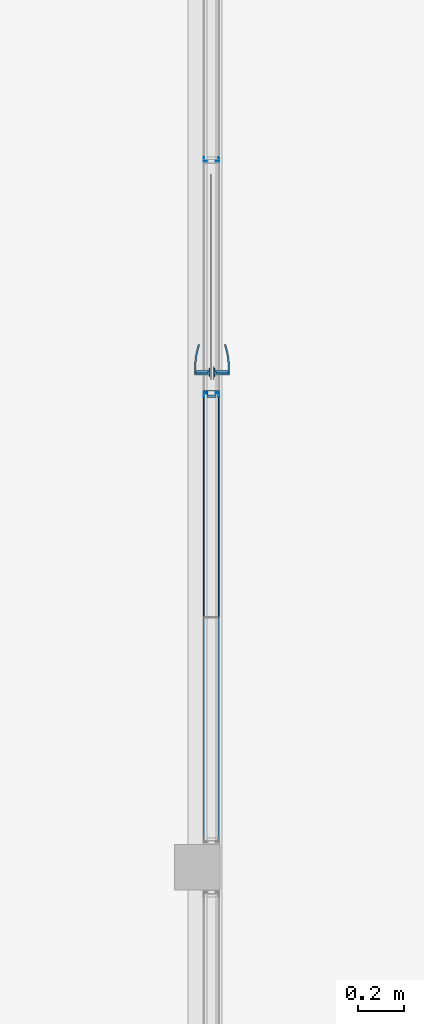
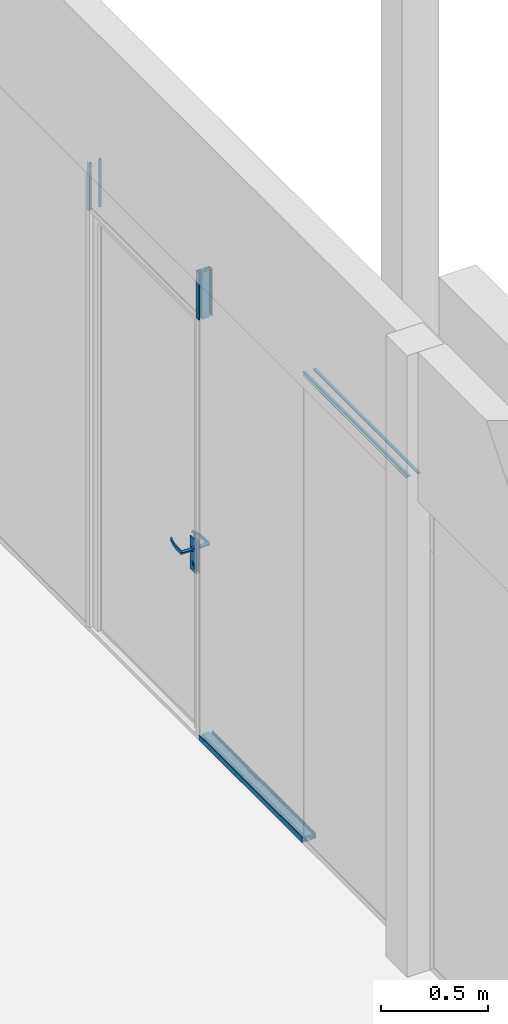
# One storey, part 47 of 65: 7 building element parts, 6 elements without a shape of their own.
"""IFC2X3 building model written with IfcOpenShell, lengths in millimetres."""

from ifc_helpers import new_model, entity, si_unit, converted_unit, derived_unit, money_unit, direction, frame, origin_with_axes, place, context, subcontext, project, spatial, open_shell, faceted_brep, surface_model, material, type_object, element, aggregate, save


model = new_model("IFC2X3")

# Units and contexts
model_context = context("Model", 3, precision=0.01, world=origin_with_axes(), true_north=direction((0.0, 1.0)))
body_context = subcontext(model_context, "Body", "Model", "MODEL_VIEW")
ifc_project = project(units=[si_unit("LENGTHUNIT", "METRE", prefix="MILLI"), si_unit("AREAUNIT", "SQUARE_METRE"), si_unit("VOLUMEUNIT", "CUBIC_METRE"), converted_unit("PLANEANGLEUNIT", "DEGREE", entity("IfcPlaneAngleMeasure", 0.0174532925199), si_unit("PLANEANGLEUNIT", "RADIAN"), dimensions=[0, 0, 0, 0, 0, 0, 0]), si_unit("SOLIDANGLEUNIT", "STERADIAN"), money_unit("EUR"), converted_unit("TIMEUNIT", "Year", entity("IfcTimeMeasure", 31556926.0), si_unit("TIMEUNIT", "SECOND"), dimensions=[0, 0, 1, 0, 0, 0, 0]), si_unit("MASSUNIT", "GRAM", prefix="KILO"), si_unit("THERMODYNAMICTEMPERATUREUNIT", "DEGREE_CELSIUS"), si_unit("LUMINOUSINTENSITYUNIT", "LUMEN"), si_unit("ENERGYUNIT", "JOULE", prefix="MEGA"), derived_unit("THERMALCONDUCTANCEUNIT", [(si_unit("POWERUNIT", "WATT"), 1), (si_unit("LENGTHUNIT", "METRE"), -1), (si_unit("THERMODYNAMICTEMPERATUREUNIT", "KELVIN"), -1)]), derived_unit("SPECIFICHEATCAPACITYUNIT", [(si_unit("ENERGYUNIT", "JOULE"), 1), (si_unit("MASSUNIT", "GRAM", prefix="KILO"), -1), (si_unit("THERMODYNAMICTEMPERATUREUNIT", "KELVIN"), -1)]), derived_unit("MASSDENSITYUNIT", [(si_unit("MASSUNIT", "GRAM", prefix="KILO"), 1), (si_unit("VOLUMEUNIT", "CUBIC_METRE"), -1)])], contexts=[model_context])

# Site, building, storey
site_placement = place(None, origin_with_axes())
site = spatial("IfcSite", under=ifc_project, at=site_placement, Name="Puškini 31, Narva", CompositionType="ELEMENT")
building_placement = place(site_placement, origin_with_axes())
building = spatial("IfcBuilding", under=site, at=building_placement, Name="Narva Riigigümnaasium", CompositionType="ELEMENT")
storey_placement = place(building_placement, frame((0.0, 0.0, -1320.0), z_axis=(0.0, 0.0, 1.0), x_axis=(1.0, 0.0, 0.0)))
storey = spatial("IfcBuildingStorey", under=building, at=storey_placement, Name="1.korrus -1.32", CompositionType="ELEMENT", Elevation=-1320.0)

# Curtain wall, door, building element parts, members
curtain_wall_type = type_object("IfcCurtainWallType", Name="Curtain Wall Type", PredefinedType="NOTDEFINED")
curtain_wall_placement = place(storey_placement, frame((30362.9999948, 171898.750025, 0.0), z_axis=(0.0, 0.0, 1.0), x_axis=(1.0, 0.0, 0.0)))
curtain_wall = element("IfcCurtainWall", 1, at=curtain_wall_placement, inside=storey, type_object=curtain_wall_type, Name="G-SKLF-06")
door_style = type_object("IfcDoorStyle", Name="968 x 2365 x 20", ConstructionType="NOTDEFINED", OperationType="NOTDEFINED", ParameterTakesPrecedence=False, Sizeable=False)
door_placement = place(curtain_wall_placement, frame((0.0, 1995.0, 1200.0), z_axis=(0.0, 0.0, 1.0), x_axis=(0.0, -1.0, 0.0)))
door = element("IfcDoor", 2, at=door_placement, type_object=door_style, Name="G-SKLF-06-U1", ObjectType="DOOR")
ifc_material_1 = material(Name="ET-07_Teras - Roostevaba")
building_element_part_1_placement = place(door_placement, origin_with_axes())
building_element_part_1 = element("IfcBuildingElementPart", 3, at=building_element_part_1_placement, material=ifc_material_1, Name="ET-07_Teras - Roostevaba", context=body_context, shape_type="SurfaceModel", body=[
    faceted_brep([(449.25, 9.0, -120.0), (449.25, 12.0, -120.0), (392.25, 12.0, -120.0), (392.25, 9.0, -120.0), (449.25, 9.0, -310.0), (449.25, 12.0, -310.0), (392.25, 12.0, -310.0), (392.25, 9.0, -310.0)], [[[0, 1, 2, 3]], [[4, 5, 1, 0]], [[1, 5, 6, 2]], [[3, 2, 6, 7]], [[0, 3, 7, 4]], [[7, 6, 5, 4]]]),
    surface_model("IfcShellBasedSurfaceModel", [(420.75, 73.0, -190.0), (420.75, 80.0, -190.0), (429.410254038, 80.0, -185.0), (429.410254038, 73.0, -185.0), (395.75, 73.0, -190.0), (395.75, 80.0, -190.0), (395.75, 80.0, -170.0), (420.75, 80.0, -170.0), (429.410254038, 80.0, -175.0), (429.410254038, 73.0, -175.0), (420.75, 73.0, -170.0), (395.75, 73.0, -170.0)], [open_shell([[[0, 1, 2, 3]], [[4, 5, 1, 0]], [[1, 5, 6, 7, 8, 2]], [[3, 2, 8, 9]], [[0, 3, 9, 10, 11, 4]], [[10, 7, 6, 11]], [[9, 8, 7, 10]]])]),
    surface_model("IfcShellBasedSurfaceModel", [(395.75, 73.0, -170.0), (382.346090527, 80.0, -170.392699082), (382.651717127, 73.0, -170.392699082), (395.75, 80.0, -170.0), (355.640283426, 77.6635446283, -171.178097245), (382.651717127, 73.0, -189.607300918), (395.75, 73.0, -190.0), (395.75, 80.0, -190.0), (382.346090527, 80.0, -189.607300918), (355.640283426, 77.6635446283, -188.821902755), (356.554837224, 70.716818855, -171.178097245), (356.554837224, 70.716818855, -188.821902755), (329.239735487, 73.0084157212, -188.036504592), (329.239735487, 73.0084157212, -171.963495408), (330.756256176, 66.1678329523, -171.963495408), (330.756256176, 66.1678329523, -188.036504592), (303.34537082, 66.0700416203, -187.251106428), (303.34537082, 66.0700416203, -172.748893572), (305.452316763, 59.3876628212, -172.748893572), (305.452316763, 59.3876628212, -187.251106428), (295.288795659, 63.1376880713, -187.0), (295.288795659, 63.1376880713, -173.0), (297.579442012, 56.5221707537, -173.0), (297.579442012, 56.5221707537, -187.0)], [open_shell([[[0, 1, 2]], [[0, 3, 1]], [[2, 1, 4]], [[0, 2, 5, 6]], [[3, 7, 8, 1]], [[1, 8, 9, 4]], [[2, 4, 10]], [[2, 10, 11, 5]], [[5, 7, 6]], [[5, 8, 7]], [[11, 9, 8]], [[4, 9, 12, 13]], [[10, 4, 13]], [[10, 14, 15, 11]], [[11, 8, 5]], [[15, 9, 11]], [[15, 12, 9]], [[13, 12, 16, 17]], [[10, 13, 14]], [[14, 18, 19, 15]], [[19, 12, 15]], [[19, 16, 12]], [[17, 16, 20, 21]], [[14, 13, 17]], [[14, 17, 18]], [[18, 22, 23, 19]], [[23, 16, 19]], [[23, 20, 16]], [[22, 21, 20, 23]], [[18, 17, 21]], [[18, 21, 22]]])]),
    faceted_brep([(417.041796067, 22.0, -191.412678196), (416.732779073, 12.0, -192.363734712), (407.75, 12.0, -180.0), (408.75, 22.0, -180.0), (430.458203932, 22.0, -187.053423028), (431.267220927, 12.0, -187.64120828), (431.267220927, 12.0, -172.35879172), (416.732779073, 12.0, -167.636265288), (417.041796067, 22.0, -168.587321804), (430.458203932, 22.0, -172.946576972)], [[[0, 1, 2, 3]], [[4, 5, 1, 0]], [[2, 1, 5, 6, 7]], [[3, 2, 7, 8]], [[3, 8, 9, 4, 0]], [[9, 6, 5, 4]], [[8, 7, 6, 9]]]),
    faceted_brep([(414.569660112, 16.0, -294.021130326), (413.951626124, 12.0, -295.923243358), (398.75, 12.0, -275.0), (400.75, 16.0, -275.0), (436.930339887, 16.0, -286.755705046), (438.548373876, 12.0, -287.93127555), (438.548373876, 12.0, -262.06872445), (413.951626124, 12.0, -254.076756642), (414.569660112, 16.0, -255.978869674), (436.930339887, 16.0, -263.244294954)], [[[0, 1, 2, 3]], [[4, 5, 1, 0]], [[2, 1, 5, 6, 7]], [[3, 2, 7, 8]], [[3, 8, 9, 4, 0]], [[9, 6, 5, 4]], [[8, 7, 6, 9]]]),
    faceted_brep([(418.586881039, 18.0, -272.657395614), (418.277864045, 16.0, -273.60845213), (412.75, 16.0, -266.0), (413.75, 18.0, -266.0), (426.413118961, 18.0, -270.114496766), (427.222135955, 16.0, -270.702282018), (427.222135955, 16.0, -261.297717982), (418.277864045, 16.0, -258.39154787), (418.586881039, 18.0, -259.342604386), (426.413118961, 18.0, -261.885503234)], [[[0, 1, 2, 3]], [[4, 5, 1, 0]], [[2, 1, 5, 6, 7]], [[3, 2, 7, 8]], [[3, 8, 9, 4, 0]], [[9, 6, 5, 4]], [[8, 7, 6, 9]]]),
    faceted_brep([(420.75, 22.0, -170.0), (420.75, 73.0, -170.0), (411.239434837, 73.0, -176.909830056), (411.239434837, 22.0, -176.909830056), (430.260565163, 22.0, -176.909830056), (430.260565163, 73.0, -176.909830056), (426.627852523, 73.0, -188.090169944), (414.872147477, 73.0, -188.090169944), (414.872147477, 22.0, -188.090169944), (426.627852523, 22.0, -188.090169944)], [[[0, 1, 2, 3]], [[4, 5, 1, 0]], [[1, 5, 6, 7, 2]], [[3, 2, 7, 8]], [[0, 3, 8, 9, 4]], [[9, 6, 5, 4]], [[8, 7, 6, 9]]]),
    faceted_brep([(449.25, -3.0, -120.0), (392.25, -3.0, -120.0), (392.25, -6.0, -120.0), (449.25, -6.0, -120.0), (449.25, -3.0, -310.0), (392.25, -3.0, -310.0), (392.25, -6.0, -310.0), (449.25, -6.0, -310.0)], [[[0, 1, 2, 3]], [[0, 4, 5, 1]], [[1, 5, 6, 2]], [[3, 2, 6, 7]], [[4, 0, 3, 7]], [[5, 4, 7, 6]]]),
    surface_model("IfcShellBasedSurfaceModel", [(420.75, -67.0, -190.0), (429.410254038, -67.0, -185.0), (429.410254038, -74.0, -185.0), (420.75, -74.0, -190.0), (395.75, -67.0, -190.0), (395.75, -67.0, -170.0), (420.75, -67.0, -170.0), (429.410254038, -67.0, -175.0), (429.410254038, -74.0, -175.0), (420.75, -74.0, -170.0), (395.75, -74.0, -170.0), (395.75, -74.0, -190.0)], [open_shell([[[0, 1, 2, 3]], [[0, 4, 5, 6, 7, 1]], [[1, 7, 8, 2]], [[3, 2, 8, 9, 10, 11]], [[4, 0, 3, 11]], [[6, 5, 10, 9]], [[7, 6, 9, 8]]])]),
    surface_model("IfcShellBasedSurfaceModel", [(395.75, -67.0, -170.0), (382.651717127, -67.0, -170.392699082), (382.346090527, -74.0, -170.392699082), (395.75, -67.0, -190.0), (382.651717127, -67.0, -189.607300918), (355.640283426, -71.6635446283, -171.178097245), (395.75, -74.0, -170.0), (395.75, -74.0, -190.0), (356.554837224, -64.716818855, -188.821902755), (356.554837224, -64.716818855, -171.178097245), (355.640283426, -71.6635446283, -188.821902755), (382.346090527, -74.0, -189.607300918), (330.756256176, -60.1678329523, -188.036504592), (330.756256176, -60.1678329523, -171.963495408), (329.239735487, -67.0084157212, -171.963495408), (329.239735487, -67.0084157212, -188.036504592), (305.452316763, -53.3876628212, -187.251106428), (305.452316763, -53.3876628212, -172.748893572), (303.34537082, -60.0700416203, -172.748893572), (303.34537082, -60.0700416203, -187.251106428), (297.579442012, -50.5221707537, -187.0), (297.579442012, -50.5221707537, -173.0), (295.288795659, -57.1376880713, -173.0), (295.288795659, -57.1376880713, -187.0)], [open_shell([[[0, 1, 2]], [[0, 3, 4, 1]], [[1, 5, 2]], [[0, 2, 6]], [[4, 3, 7]], [[1, 4, 8, 9]], [[1, 9, 5]], [[2, 5, 10, 11]], [[6, 2, 11, 7]], [[4, 7, 11]], [[8, 4, 11]], [[9, 8, 12, 13]], [[9, 14, 5]], [[5, 14, 15, 10]], [[8, 11, 10]], [[12, 8, 10]], [[13, 12, 16, 17]], [[9, 13, 14]], [[14, 18, 19, 15]], [[12, 10, 15]], [[16, 12, 15]], [[17, 16, 20, 21]], [[13, 17, 18]], [[13, 18, 14]], [[18, 22, 23, 19]], [[16, 15, 19]], [[20, 16, 19]], [[21, 20, 23, 22]], [[17, 21, 22]], [[17, 22, 18]], [[20, 19, 23]]])]),
    faceted_brep([(417.041796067, -16.0, -191.412678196), (408.75, -16.0, -180.0), (407.75, -6.0, -180.0), (416.732779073, -6.0, -192.363734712), (430.458203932, -16.0, -187.053423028), (430.458203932, -16.0, -172.946576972), (417.041796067, -16.0, -168.587321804), (416.732779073, -6.0, -167.636265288), (431.267220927, -6.0, -172.35879172), (431.267220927, -6.0, -187.64120828)], [[[0, 1, 2, 3]], [[1, 0, 4, 5, 6]], [[1, 6, 7, 2]], [[2, 7, 8, 9, 3]], [[4, 0, 3, 9]], [[5, 4, 9, 8]], [[6, 5, 8, 7]]]),
    faceted_brep([(414.569660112, -10.0, -294.021130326), (400.75, -10.0, -275.0), (398.75, -6.0, -275.0), (413.951626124, -6.0, -295.923243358), (436.930339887, -10.0, -286.755705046), (436.930339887, -10.0, -263.244294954), (414.569660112, -10.0, -255.978869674), (413.951626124, -6.0, -254.076756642), (438.548373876, -6.0, -262.06872445), (438.548373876, -6.0, -287.93127555)], [[[0, 1, 2, 3]], [[1, 0, 4, 5, 6]], [[1, 6, 7, 2]], [[2, 7, 8, 9, 3]], [[4, 0, 3, 9]], [[5, 4, 9, 8]], [[6, 5, 8, 7]]]),
    faceted_brep([(418.586881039, -12.0, -272.657395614), (413.75, -12.0, -266.0), (412.75, -10.0, -266.0), (418.277864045, -10.0, -273.60845213), (426.413118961, -12.0, -270.114496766), (426.413118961, -12.0, -261.885503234), (418.586881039, -12.0, -259.342604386), (418.277864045, -10.0, -258.39154787), (427.222135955, -10.0, -261.297717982), (427.222135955, -10.0, -270.702282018)], [[[0, 1, 2, 3]], [[1, 0, 4, 5, 6]], [[1, 6, 7, 2]], [[2, 7, 8, 9, 3]], [[4, 0, 3, 9]], [[5, 4, 9, 8]], [[6, 5, 8, 7]]]),
    faceted_brep([(420.75, -16.0, -170.0), (411.239434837, -16.0, -176.909830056), (411.239434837, -67.0, -176.909830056), (420.75, -67.0, -170.0), (430.260565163, -16.0, -176.909830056), (426.627852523, -16.0, -188.090169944), (414.872147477, -16.0, -188.090169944), (414.872147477, -67.0, -188.090169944), (426.627852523, -67.0, -188.090169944), (430.260565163, -67.0, -176.909830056)], [[[0, 1, 2, 3]], [[0, 4, 5, 6, 1]], [[1, 6, 7, 2]], [[3, 2, 7, 8, 9]], [[4, 0, 3, 9]], [[5, 4, 9, 8]], [[6, 5, 8, 7]]]),
])
aggregate(door, [building_element_part_1])
member_type_1 = type_object("IfcMemberType", Name="30 x 27", PredefinedType="MULLION")
member_1_placement = place(curtain_wall_placement, frame((0.0, 1496.25, 2400.0), z_axis=(0.0, 0.0, 1.0), x_axis=(0.0, -1.0, 0.0)))
member_1 = element("IfcMember", 4, at=member_1_placement, type_object=member_type_1, Name="G-SKLF-06-raam", ObjectType="MULLION")
ifc_material_2 = material(Name="Klaasvill")
building_element_part_2_placement = place(member_1_placement, origin_with_axes())
building_element_part_2 = element("IfcBuildingElementPart", 5, at=building_element_part_2_placement, material=ifc_material_2, Name="Klaasvill", context=body_context, shape_type="Brep", body=[
    faceted_brep([(7.49999990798, 20.000000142, 0.0), (13.8499999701, 20.000000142, 0.0), (13.8499999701, 20.000000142, 269.999980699), (7.49999990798, 20.000000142, 269.999980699), (7.49999990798, 34.0161444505, 0.0), (13.8499999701, 34.0161444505, 0.0), (13.8499999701, 34.0161444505, 269.999980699), (7.49999990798, 34.0161444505, 269.999980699)], [[[0, 1, 2, 3]], [[0, 4, 5, 1]], [[1, 5, 6, 2]], [[3, 2, 6, 7]], [[4, 0, 3, 7]], [[5, 4, 7, 6]]]),
    faceted_brep([(24.987414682, 34.0161444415, 0.0), (25.004489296, 32.0307503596, 0.0), (25.004489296, 32.0307503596, 269.999980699), (24.987414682, 34.0161444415, 269.999980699), (28.5126239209, 34.0161444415, 0.0), (28.7655837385, 33.0385325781, 0.0), (28.4955493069, 32.0307503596, 0.0), (27.75780152, 31.2930025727, 0.0), (26.7500193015, 31.0229681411, 0.0), (25.742237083, 31.2930025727, 0.0), (25.742237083, 31.2930025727, 269.999980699), (26.7500193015, 31.0229681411, 269.999980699), (27.75780152, 31.2930025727, 269.999980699), (28.4955493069, 32.0307503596, 269.999980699), (28.7655837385, 33.0385325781, 269.999980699), (28.5126239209, 34.0161444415, 269.999980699)], [[[0, 1, 2, 3]], [[0, 4, 5, 6, 7, 8, 9, 1]], [[1, 9, 10, 2]], [[3, 2, 10, 11, 12, 13, 14, 15]], [[4, 0, 3, 15]], [[5, 4, 15, 14]], [[6, 5, 14, 13]], [[7, 6, 13, 12]], [[8, 7, 12, 11]], [[9, 8, 11, 10]]]),
    faceted_brep([(7.49999990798, -19.9999997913, 0.0), (7.49999990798, -34.0161445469, 0.0), (7.49999990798, -34.0161445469, 269.999980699), (7.49999990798, -19.9999997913, 269.999980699), (13.8499999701, -19.9999997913, 0.0), (13.8499999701, -34.0161445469, 0.0), (13.8499999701, -34.0161445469, 269.999980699), (13.8499999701, -19.9999997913, 269.999980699)], [[[0, 1, 2, 3]], [[0, 4, 5, 1]], [[1, 5, 6, 2]], [[3, 2, 6, 7]], [[4, 0, 3, 7]], [[5, 4, 7, 6]]]),
    faceted_brep([(25.004489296, -32.0307503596, 0.0), (24.987414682, -34.0161444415, 0.0), (24.987414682, -34.0161444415, 269.999980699), (25.004489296, -32.0307503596, 269.999980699), (25.742237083, -31.2930025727, 0.0), (26.7500193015, -31.0229681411, 0.0), (27.75780152, -31.2930025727, 0.0), (28.4955493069, -32.0307503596, 0.0), (28.7655837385, -33.0385325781, 0.0), (28.5126239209, -34.0161444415, 0.0), (28.5126239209, -34.0161444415, 269.999980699), (28.7655837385, -33.0385325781, 269.999980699), (28.4955493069, -32.0307503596, 269.999980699), (27.75780152, -31.2930025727, 269.999980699), (26.7500193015, -31.0229681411, 269.999980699), (25.742237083, -31.2930025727, 269.999980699)], [[[0, 1, 2, 3]], [[0, 4, 5, 6, 7, 8, 9, 1]], [[1, 9, 10, 2]], [[3, 2, 10, 11, 12, 13, 14, 15]], [[4, 0, 3, 15]], [[5, 4, 15, 14]], [[6, 5, 14, 13]], [[7, 6, 13, 12]], [[8, 7, 12, 11]], [[9, 8, 11, 10]]]),
])
ifc_material_3 = material(Name="Teras RAL7012")
building_element_part_3_placement = place(member_1_placement, origin_with_axes())
building_element_part_3 = element("IfcBuildingElementPart", 6, at=building_element_part_3_placement, material=ifc_material_3, Name="Teras RAL7012", context=body_context, shape_type="Brep", body=[
    faceted_brep([(0.0, -17.0000000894, 0.0), (29.5999996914, -17.0000000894, 0.0), (29.5999996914, -17.0000000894, 269.999980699), (0.0, -17.0000000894, 269.999980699), (0.0, 17.0000000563, 0.0), (29.5999996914, 17.0000000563, 0.0), (1.9999999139, 15.0000001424, 0.0), (1.9999999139, -15.0000001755, 0.0), (18.7999996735, -15.0000001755, 0.0), (18.7999996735, 15.0000001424, 0.0), (29.5999996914, 17.0000000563, 269.999980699), (0.0, 17.0000000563, 269.999980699), (1.9999999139, 15.0000001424, 269.999980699), (18.7999996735, 15.0000001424, 269.999980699), (18.7999996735, -15.0000001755, 269.999980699), (1.9999999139, -15.0000001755, 269.999980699)], [[[0, 1, 2, 3]], [[0, 4, 5, 1], [6, 7, 8, 9]], [[1, 5, 10, 2]], [[3, 2, 10, 11], [12, 13, 14, 15]], [[4, 0, 3, 11]], [[5, 4, 11, 10]], [[7, 6, 12, 15]], [[8, 7, 15, 14]], [[9, 8, 14, 13]], [[6, 9, 13, 12]]]),
    faceted_brep([(0.0, 17.0, 0.0), (29.5999996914, 17.0000000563, 0.0), (29.5999996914, 17.0000000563, 269.999980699), (0.0, 17.0, 269.999980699), (0.0, 37.0, 0.0), (30.0000193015, 37.0, 0.0), (30.0000193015, 34.0161444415, 0.0), (28.5126239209, 34.0161444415, 0.0), (24.987414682, 34.0161444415, 0.0), (13.8499999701, 34.0161444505, 0.0), (7.49999999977, 34.0161444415, 0.0), (7.49999999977, 20.0, 0.0), (13.8499999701, 20.000000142, 0.0), (30.0000193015, 20.0, 0.0), (30.0000193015, 17.0, 0.0), (30.0000193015, 17.0, 269.999980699), (30.0000193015, 20.0, 269.999980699), (13.8499999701, 20.000000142, 269.999980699), (7.49999999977, 20.0, 269.999980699), (7.49999999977, 34.0161444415, 269.999980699), (13.8499999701, 34.0161444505, 269.999980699), (24.987414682, 34.0161444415, 269.999980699), (28.5126239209, 34.0161444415, 269.999980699), (30.0000193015, 34.0161444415, 269.999980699), (30.0000193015, 37.0, 269.999980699), (0.0, 37.0, 269.999980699)], [[[0, 1, 2, 3]], [[0, 4, 5, 6, 7, 8, 9, 10, 11, 12, 13, 14, 1]], [[1, 14, 15, 2]], [[3, 2, 15, 16, 17, 18, 19, 20, 21, 22, 23, 24, 25]], [[4, 0, 3, 25]], [[5, 4, 25, 24]], [[6, 5, 24, 23]], [[7, 6, 23, 22]], [[8, 7, 22, 21]], [[9, 8, 21, 20]], [[10, 9, 20, 19]], [[11, 10, 19, 18]], [[12, 11, 18, 17]], [[13, 12, 17, 16]], [[14, 13, 16, 15]]]),
    faceted_brep([(0.0, -17.0, 0.0), (0.0, -37.0, 0.0), (0.0, -37.0, 269.999980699), (0.0, -17.0, 269.999980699), (29.5999996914, -17.0000000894, 0.0), (30.0000193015, -17.0, 0.0), (30.0000193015, -20.0, 0.0), (13.8499999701, -19.9999997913, 0.0), (7.49999999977, -20.0, 0.0), (7.49999999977, -34.0161444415, 0.0), (13.8499999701, -34.0161445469, 0.0), (24.987414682, -34.0161444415, 0.0), (28.5126239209, -34.0161444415, 0.0), (30.0000193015, -34.0161444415, 0.0), (30.0000193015, -37.0, 0.0), (30.0000193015, -37.0, 269.999980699), (30.0000193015, -34.0161444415, 269.999980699), (28.5126239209, -34.0161444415, 269.999980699), (24.987414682, -34.0161444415, 269.999980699), (13.8499999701, -34.0161445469, 269.999980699), (7.49999999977, -34.0161444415, 269.999980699), (7.49999999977, -20.0, 269.999980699), (13.8499999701, -19.9999997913, 269.999980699), (30.0000193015, -20.0, 269.999980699), (30.0000193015, -17.0, 269.999980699), (29.5999996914, -17.0000000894, 269.999980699)], [[[0, 1, 2, 3]], [[0, 4, 5, 6, 7, 8, 9, 10, 11, 12, 13, 14, 1]], [[1, 14, 15, 2]], [[3, 2, 15, 16, 17, 18, 19, 20, 21, 22, 23, 24, 25]], [[4, 0, 3, 25]], [[5, 4, 25, 24]], [[6, 5, 24, 23]], [[7, 6, 23, 22]], [[8, 7, 22, 21]], [[9, 8, 21, 20]], [[10, 9, 20, 19]], [[11, 10, 19, 18]], [[12, 11, 18, 17]], [[13, 12, 17, 16]], [[14, 13, 16, 15]]]),
])
aggregate(member_1, [building_element_part_2, building_element_part_3])
member_2_placement = place(curtain_wall_placement, frame((0.0, 2493.75, 2400.0), z_axis=(0.0, 0.0, 1.0), x_axis=(0.0, -1.0, 0.0)))
member_2 = element("IfcMember", 7, at=member_2_placement, type_object=member_type_1, Name="G-SKLF-06-raam", ObjectType="MULLION")
building_element_part_4_placement = place(member_2_placement, origin_with_axes())
building_element_part_4 = element("IfcBuildingElementPart", 8, at=building_element_part_4_placement, material=ifc_material_2, Name="Klaasvill", context=body_context, shape_type="Brep", body=[
    faceted_brep([(-13.8499999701, 20.000000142, 0.0), (-7.49999990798, 20.000000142, 0.0), (-7.49999990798, 20.000000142, 269.999980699), (-13.8499999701, 20.000000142, 269.999980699), (-13.8499999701, 34.0161444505, 0.0), (-7.49999990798, 34.0161444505, 0.0), (-7.49999990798, 34.0161444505, 269.999980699), (-13.8499999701, 34.0161444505, 269.999980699)], [[[0, 1, 2, 3]], [[0, 4, 5, 1]], [[1, 5, 6, 2]], [[3, 2, 6, 7]], [[4, 0, 3, 7]], [[5, 4, 7, 6]]]),
    faceted_brep([(-24.987414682, 34.0161444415, 0.0), (-28.7655837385, 33.0385325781, 0.0), (-28.7655837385, 33.0385325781, 269.999980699), (-24.987414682, 34.0161444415, 269.999980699), (-24.7344548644, 33.0385325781, 0.0), (-25.004489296, 32.0307503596, 0.0), (-25.742237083, 31.2930025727, 0.0), (-26.7500193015, 31.0229681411, 0.0), (-27.75780152, 31.2930025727, 0.0), (-28.4955493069, 32.0307503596, 0.0), (-28.4955493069, 32.0307503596, 269.999980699), (-27.75780152, 31.2930025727, 269.999980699), (-26.7500193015, 31.0229681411, 269.999980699), (-25.742237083, 31.2930025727, 269.999980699), (-25.004489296, 32.0307503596, 269.999980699), (-24.7344548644, 33.0385325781, 269.999980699)], [[[0, 1, 2, 3]], [[0, 4, 5, 6, 7, 8, 9, 1]], [[1, 9, 10, 2]], [[3, 2, 10, 11, 12, 13, 14, 15]], [[4, 0, 3, 15]], [[5, 4, 15, 14]], [[6, 5, 14, 13]], [[7, 6, 13, 12]], [[8, 7, 12, 11]], [[9, 8, 11, 10]]]),
    faceted_brep([(-13.8499999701, -19.9999997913, 0.0), (-13.8499999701, -34.0161445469, 0.0), (-13.8499999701, -34.0161445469, 269.999980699), (-13.8499999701, -19.9999997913, 269.999980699), (-7.49999990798, -19.9999997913, 0.0), (-7.49999990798, -34.0161445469, 0.0), (-7.49999990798, -34.0161445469, 269.999980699), (-7.49999990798, -19.9999997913, 269.999980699)], [[[0, 1, 2, 3]], [[0, 4, 5, 1]], [[1, 5, 6, 2]], [[3, 2, 6, 7]], [[4, 0, 3, 7]], [[5, 4, 7, 6]]]),
    faceted_brep([(-24.987414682, -34.0161444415, 0.0), (-25.004489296, -32.0307503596, 0.0), (-25.004489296, -32.0307503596, 269.999980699), (-24.987414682, -34.0161444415, 269.999980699), (-28.5126239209, -34.0161444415, 0.0), (-28.7655837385, -33.0385325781, 0.0), (-28.4955493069, -32.0307503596, 0.0), (-27.75780152, -31.2930025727, 0.0), (-26.7500193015, -31.0229681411, 0.0), (-25.742237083, -31.2930025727, 0.0), (-25.742237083, -31.2930025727, 269.999980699), (-26.7500193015, -31.0229681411, 269.999980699), (-27.75780152, -31.2930025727, 269.999980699), (-28.4955493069, -32.0307503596, 269.999980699), (-28.7655837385, -33.0385325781, 269.999980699), (-28.5126239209, -34.0161444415, 269.999980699)], [[[0, 1, 2, 3]], [[0, 4, 5, 6, 7, 8, 9, 1]], [[1, 9, 10, 2]], [[3, 2, 10, 11, 12, 13, 14, 15]], [[4, 0, 3, 15]], [[5, 4, 15, 14]], [[6, 5, 14, 13]], [[7, 6, 13, 12]], [[8, 7, 12, 11]], [[9, 8, 11, 10]]]),
])
aggregate(member_2, [building_element_part_4])
member_type_2 = type_object("IfcMemberType", Name="30 x 37", PredefinedType="MULLION")
member_3_placement = place(curtain_wall_placement, frame((0.0, -498.75, 2700.0), z_axis=(0.0, 1.0, 0.0), x_axis=(0.0, 0.0, 1.0)))
member_3 = element("IfcMember", 9, at=member_3_placement, type_object=member_type_2, Name="G-SKLF-06-raam", ObjectType="MULLION")
building_element_part_5_placement = place(member_3_placement, origin_with_axes())
building_element_part_5 = element("IfcBuildingElementPart", 10, at=building_element_part_5_placement, material=ifc_material_2, Name="Klaasvill", context=body_context, shape_type="Brep", body=[
    faceted_brep([(-13.8499999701, 20.000000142, 13.8499999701), (-7.49999990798, 20.000000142, 7.49999990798), (-7.49999990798, 20.000000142, 997.5), (-13.8499999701, 20.000000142, 997.5), (-13.8499999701, 34.0161444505, 13.8499999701), (-7.49999990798, 34.0161444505, 7.49999990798), (-7.49999990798, 34.0161444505, 997.5), (-13.8499999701, 34.0161444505, 997.5)], [[[0, 1, 2, 3]], [[1, 0, 4, 5]], [[1, 5, 6, 2]], [[2, 6, 7, 3]], [[4, 0, 3, 7]], [[5, 4, 7, 6]]]),
    faceted_brep([(-25.004489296, 32.0307503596, 25.004489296), (-24.987414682, 34.0161444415, 24.987414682), (-24.987414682, 34.0161444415, 997.5), (-25.004489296, 32.0307503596, 997.5), (-25.742237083, 31.2930025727, 25.742237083), (-26.7500193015, 31.0229681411, 26.7500193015), (-27.75780152, 31.2930025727, 27.75780152), (-28.4955493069, 32.0307503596, 28.4955493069), (-28.7655837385, 33.0385325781, 28.7655837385), (-28.5126239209, 34.0161444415, 28.5126239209), (-28.5126239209, 34.0161444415, 997.5), (-28.7655837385, 33.0385325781, 997.5), (-28.4955493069, 32.0307503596, 997.5), (-27.75780152, 31.2930025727, 997.5), (-26.7500193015, 31.0229681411, 997.5), (-25.742237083, 31.2930025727, 997.5)], [[[0, 1, 2, 3]], [[1, 0, 4, 5, 6, 7, 8, 9]], [[1, 9, 10, 2]], [[2, 10, 11, 12, 13, 14, 15, 3]], [[4, 0, 3, 15]], [[5, 4, 15, 14]], [[6, 5, 14, 13]], [[7, 6, 13, 12]], [[8, 7, 12, 11]], [[9, 8, 11, 10]]]),
    faceted_brep([(-7.49999990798, -34.0161445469, 7.49999990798), (-7.49999990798, -19.9999997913, 7.49999990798), (-7.49999990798, -19.9999997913, 997.5), (-7.49999990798, -34.0161445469, 997.5), (-13.8499999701, -34.0161445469, 13.8499999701), (-13.8499999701, -19.9999997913, 13.8499999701), (-13.8499999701, -19.9999997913, 997.5), (-13.8499999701, -34.0161445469, 997.5)], [[[0, 1, 2, 3]], [[1, 0, 4, 5]], [[1, 5, 6, 2]], [[2, 6, 7, 3]], [[4, 0, 3, 7]], [[5, 4, 7, 6]]]),
    faceted_brep([(-24.987414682, -34.0161444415, 24.987414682), (-25.004489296, -32.0307503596, 25.004489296), (-25.004489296, -32.0307503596, 997.5), (-24.987414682, -34.0161444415, 997.5), (-28.5126239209, -34.0161444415, 28.5126239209), (-28.7655837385, -33.0385325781, 28.7655837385), (-28.4955493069, -32.0307503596, 28.4955493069), (-27.75780152, -31.2930025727, 27.75780152), (-26.7500193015, -31.0229681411, 26.7500193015), (-25.742237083, -31.2930025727, 25.742237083), (-25.742237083, -31.2930025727, 997.5), (-26.7500193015, -31.0229681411, 997.5), (-27.75780152, -31.2930025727, 997.5), (-28.4955493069, -32.0307503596, 997.5), (-28.7655837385, -33.0385325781, 997.5), (-28.5126239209, -34.0161444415, 997.5)], [[[0, 1, 2, 3]], [[1, 0, 4, 5, 6, 7, 8, 9]], [[1, 9, 10, 2]], [[2, 10, 11, 12, 13, 14, 15, 3]], [[4, 0, 3, 15]], [[5, 4, 15, 14]], [[6, 5, 14, 13]], [[7, 6, 13, 12]], [[8, 7, 12, 11]], [[9, 8, 11, 10]]]),
])
aggregate(member_3, [building_element_part_5])
member_4_placement = place(curtain_wall_placement, frame((0.0, 498.75, 0.0), z_axis=(0.0, 1.0, 0.0), x_axis=(0.0, 0.0, 1.0)))
member_4 = element("IfcMember", 11, at=member_4_placement, type_object=member_type_2, Name="G-SKLF-06-raam", ObjectType="MULLION")
aggregate(curtain_wall, [door, member_1, member_2, member_3, member_4])
building_element_part_6_placement = place(member_4_placement, origin_with_axes())
building_element_part_6 = element("IfcBuildingElementPart", 12, at=building_element_part_6_placement, material=ifc_material_2, Name="Klaasvill", context=body_context, shape_type="Brep", body=[
    faceted_brep([(7.49999990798, 20.000000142, 0.0), (13.8499999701, 20.000000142, 0.0), (13.8499999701, 20.000000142, 968.0), (7.49999990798, 20.000000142, 968.0), (7.49999990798, 34.0161444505, 0.0), (13.8499999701, 34.0161444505, 0.0), (13.8499999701, 34.0161444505, 968.0), (7.49999990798, 34.0161444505, 968.0)], [[[0, 1, 2, 3]], [[0, 4, 5, 1]], [[1, 5, 6, 2]], [[3, 2, 6, 7]], [[4, 0, 3, 7]], [[5, 4, 7, 6]]]),
    faceted_brep([(24.987414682, 34.0161444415, 0.0), (25.004489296, 32.0307503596, 0.0), (25.004489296, 32.0307503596, 968.0), (24.987414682, 34.0161444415, 968.0), (28.5126239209, 34.0161444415, 0.0), (28.7655837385, 33.0385325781, 0.0), (28.4955493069, 32.0307503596, 0.0), (27.75780152, 31.2930025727, 0.0), (26.7500193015, 31.0229681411, 0.0), (25.742237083, 31.2930025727, 0.0), (25.742237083, 31.2930025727, 968.0), (26.7500193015, 31.0229681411, 968.0), (27.75780152, 31.2930025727, 968.0), (28.4955493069, 32.0307503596, 968.0), (28.7655837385, 33.0385325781, 968.0), (28.5126239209, 34.0161444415, 968.0)], [[[0, 1, 2, 3]], [[0, 4, 5, 6, 7, 8, 9, 1]], [[1, 9, 10, 2]], [[3, 2, 10, 11, 12, 13, 14, 15]], [[4, 0, 3, 15]], [[5, 4, 15, 14]], [[6, 5, 14, 13]], [[7, 6, 13, 12]], [[8, 7, 12, 11]], [[9, 8, 11, 10]]]),
    faceted_brep([(7.49999990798, -19.9999997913, 0.0), (7.49999990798, -34.0161445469, 0.0), (7.49999990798, -34.0161445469, 968.0), (7.49999990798, -19.9999997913, 968.0), (13.8499999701, -19.9999997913, 0.0), (13.8499999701, -34.0161445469, 0.0), (13.8499999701, -34.0161445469, 968.0), (13.8499999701, -19.9999997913, 968.0)], [[[0, 1, 2, 3]], [[0, 4, 5, 1]], [[1, 5, 6, 2]], [[3, 2, 6, 7]], [[4, 0, 3, 7]], [[5, 4, 7, 6]]]),
    faceted_brep([(25.004489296, -32.0307503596, 0.0), (24.987414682, -34.0161444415, 0.0), (24.987414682, -34.0161444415, 968.0), (25.004489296, -32.0307503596, 968.0), (25.742237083, -31.2930025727, 0.0), (26.7500193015, -31.0229681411, 0.0), (27.75780152, -31.2930025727, 0.0), (28.4955493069, -32.0307503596, 0.0), (28.7655837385, -33.0385325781, 0.0), (28.5126239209, -34.0161444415, 0.0), (28.5126239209, -34.0161444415, 968.0), (28.7655837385, -33.0385325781, 968.0), (28.4955493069, -32.0307503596, 968.0), (27.75780152, -31.2930025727, 968.0), (26.7500193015, -31.0229681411, 968.0), (25.742237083, -31.2930025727, 968.0)], [[[0, 1, 2, 3]], [[0, 4, 5, 6, 7, 8, 9, 1]], [[1, 9, 10, 2]], [[3, 2, 10, 11, 12, 13, 14, 15]], [[4, 0, 3, 15]], [[5, 4, 15, 14]], [[6, 5, 14, 13]], [[7, 6, 13, 12]], [[8, 7, 12, 11]], [[9, 8, 11, 10]]]),
])
building_element_part_7_placement = place(member_4_placement, origin_with_axes())
building_element_part_7 = element("IfcBuildingElementPart", 13, at=building_element_part_7_placement, material=ifc_material_3, Name="Teras RAL7012", context=body_context, shape_type="Brep", body=[
    faceted_brep([(0.0, -17.0000000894, 0.0), (29.5999996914, -17.0000000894, 0.0), (29.5999996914, -17.0000000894, 968.0), (0.0, -17.0000000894, 968.0), (0.0, 17.0000000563, 0.0), (29.5999996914, 17.0000000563, 0.0), (1.9999999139, 15.0000001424, 0.0), (1.9999999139, -15.0000001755, 0.0), (18.7999996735, -15.0000001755, 0.0), (18.7999996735, 15.0000001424, 0.0), (29.5999996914, 17.0000000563, 968.0), (0.0, 17.0000000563, 968.0), (1.9999999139, 15.0000001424, 968.0), (18.7999996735, 15.0000001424, 968.0), (18.7999996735, -15.0000001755, 968.0), (1.9999999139, -15.0000001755, 968.0)], [[[0, 1, 2, 3]], [[0, 4, 5, 1], [6, 7, 8, 9]], [[1, 5, 10, 2]], [[3, 2, 10, 11], [12, 13, 14, 15]], [[4, 0, 3, 11]], [[5, 4, 11, 10]], [[7, 6, 12, 15]], [[8, 7, 15, 14]], [[9, 8, 14, 13]], [[6, 9, 13, 12]]]),
    faceted_brep([(0.0, 17.0, 0.0), (29.5999996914, 17.0000000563, 0.0), (29.5999996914, 17.0000000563, 968.0), (0.0, 17.0, 968.0), (0.0, 37.0, 0.0), (30.0000193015, 37.0, 0.0), (30.0000193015, 34.0161444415, 0.0), (28.5126239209, 34.0161444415, 0.0), (24.987414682, 34.0161444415, 0.0), (13.8499999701, 34.0161444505, 0.0), (7.49999999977, 34.0161444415, 0.0), (7.49999999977, 20.0, 0.0), (13.8499999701, 20.000000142, 0.0), (30.0000193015, 20.0, 0.0), (30.0000193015, 17.0, 0.0), (30.0000193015, 17.0, 968.0), (30.0000193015, 20.0, 968.0), (13.8499999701, 20.000000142, 968.0), (7.49999999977, 20.0, 968.0), (7.49999999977, 34.0161444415, 968.0), (13.8499999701, 34.0161444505, 968.0), (24.987414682, 34.0161444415, 968.0), (28.5126239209, 34.0161444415, 968.0), (30.0000193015, 34.0161444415, 968.0), (30.0000193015, 37.0, 968.0), (0.0, 37.0, 968.0)], [[[0, 1, 2, 3]], [[0, 4, 5, 6, 7, 8, 9, 10, 11, 12, 13, 14, 1]], [[1, 14, 15, 2]], [[3, 2, 15, 16, 17, 18, 19, 20, 21, 22, 23, 24, 25]], [[4, 0, 3, 25]], [[5, 4, 25, 24]], [[6, 5, 24, 23]], [[7, 6, 23, 22]], [[8, 7, 22, 21]], [[9, 8, 21, 20]], [[10, 9, 20, 19]], [[11, 10, 19, 18]], [[12, 11, 18, 17]], [[13, 12, 17, 16]], [[14, 13, 16, 15]]]),
    faceted_brep([(0.0, -17.0, 0.0), (0.0, -37.0, 0.0), (0.0, -37.0, 968.0), (0.0, -17.0, 968.0), (29.5999996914, -17.0000000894, 0.0), (30.0000193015, -17.0, 0.0), (30.0000193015, -20.0, 0.0), (13.8499999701, -19.9999997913, 0.0), (7.49999999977, -20.0, 0.0), (7.49999999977, -34.0161444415, 0.0), (13.8499999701, -34.0161445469, 0.0), (24.987414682, -34.0161444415, 0.0), (28.5126239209, -34.0161444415, 0.0), (30.0000193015, -34.0161444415, 0.0), (30.0000193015, -37.0, 0.0), (30.0000193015, -37.0, 968.0), (30.0000193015, -34.0161444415, 968.0), (28.5126239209, -34.0161444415, 968.0), (24.987414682, -34.0161444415, 968.0), (13.8499999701, -34.0161445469, 968.0), (7.49999999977, -34.0161444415, 968.0), (7.49999999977, -20.0, 968.0), (13.8499999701, -19.9999997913, 968.0), (30.0000193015, -20.0, 968.0), (30.0000193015, -17.0, 968.0), (29.5999996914, -17.0000000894, 968.0)], [[[0, 1, 2, 3]], [[0, 4, 5, 6, 7, 8, 9, 10, 11, 12, 13, 14, 1]], [[1, 14, 15, 2]], [[3, 2, 15, 16, 17, 18, 19, 20, 21, 22, 23, 24, 25]], [[4, 0, 3, 25]], [[5, 4, 25, 24]], [[6, 5, 24, 23]], [[7, 6, 23, 22]], [[8, 7, 22, 21]], [[9, 8, 21, 20]], [[10, 9, 20, 19]], [[11, 10, 19, 18]], [[12, 11, 18, 17]], [[13, 12, 17, 16]], [[14, 13, 16, 15]]]),
])
aggregate(member_4, [building_element_part_6, building_element_part_7])

save(model, "model.ifc")
